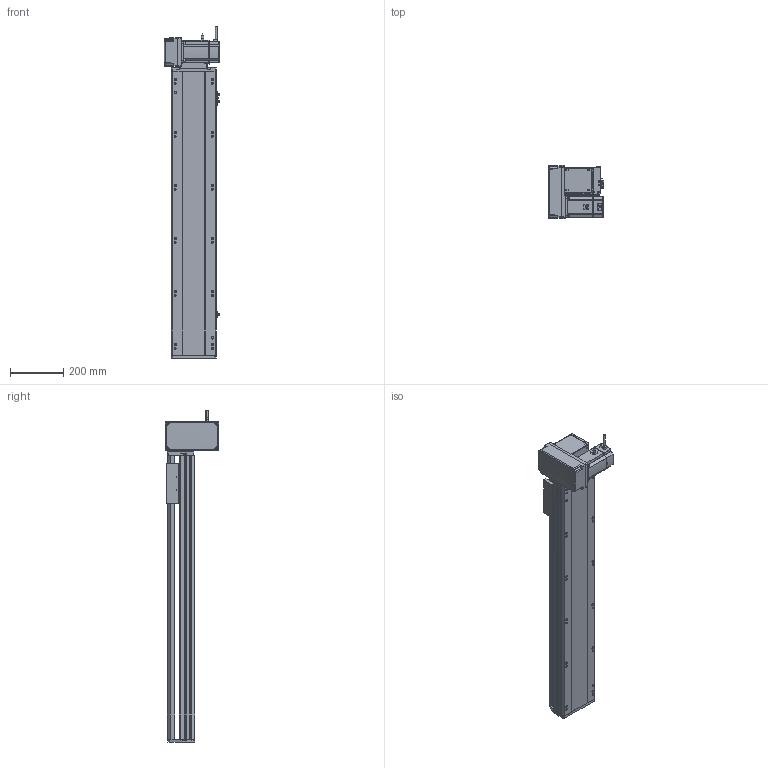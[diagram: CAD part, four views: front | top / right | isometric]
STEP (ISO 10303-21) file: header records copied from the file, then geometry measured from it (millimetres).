
FILE_DESCRIPTION (( 'STEP AP214' ), '1' );
FILE_NAME ('RTB17S-XX-800-LM-M75-C4.STEP', '2025-12-12T00:37:03', ( '' ), ( '' ), 'SwSTEP 2.0', 'SolidWorks 2018', '' );
FILE_SCHEMA (( 'AUTOMOTIVE_DESIGN' ));
Length unit declared in the file: millimetre
Products named in the file (15): 750W萇儂^RTB17S-XX-XX-LM-M75-C4; RTB17S-賑釱^RTB17S-XX-XX-LM-M75-C4; RTB17S-XX-800-LM-M75-C4; RTB17S-L-001-耜醱啣^RTB17S-XX-XX-LM-M75-C4; EE672^RTB17S-XX-XX-LM-M75-C4; RTB17S-LM-々湍釱蚾饜-750W^RTB17S-XX-XX-LM-M75-C4; RTB22S-GY-005P^RTB17S-LM-々湍釱蚾饜-750W_RTB17S-XX-XX-LM-M75-C4; RTH13-BL-012覜茼え俋离^RTB17S-賑釱_RTB17S-XX-XX-LM-M75-C4; RTB17-R-011菁釱^RTB17S-XX-XX-LM-M75-C4; RTB22S-GY-018P^RTB17S-LM-々湍釱蚾饜-750W_RTB17S-XX-XX-LM-M75-C4; RTB22S-GY-017P^RTB17S-LM-々湍釱蚾饜-750W_RTB17S-XX-XX-LM-M75-C4; RTB17S-L-014-T20-P75--々湍釱^RTB17S-LM-々湍釱蚾饜-750W_RTB17S-XX-XX-LM-M75-C4; RTB17S-L-007奻裔^RTB17S-XX-XX-LM-M75-C4; RTB17S-L-004-賑釱^RTB17S-賑釱_RTB17S-XX-XX-LM-M75-C4; RTB22S-GY-008-M75--萇儂啣^RTB17S-LM-々湍釱蚾饜-750W_RTB17S-XX-XX-LM-M75-C4
Assembly tree (17 placements, depth 3):
  RTB17S-XX-800-LM-M75-C4
    RTB17-R-011菁釱^RTB17S-XX-XX-LM-M75-C4
    EE672^RTB17S-XX-XX-LM-M75-C4  x3
    RTB17S-L-001-耜醱啣^RTB17S-XX-XX-LM-M75-C4
    RTB17S-賑釱^RTB17S-XX-XX-LM-M75-C4
      RTB17S-L-004-賑釱^RTB17S-賑釱_RTB17S-XX-XX-LM-M75-C4
      RTH13-BL-012覜茼え俋离^RTB17S-賑釱_RTB17S-XX-XX-LM-M75-C4
    RTB17S-L-007奻裔^RTB17S-XX-XX-LM-M75-C4
    750W萇儂^RTB17S-XX-XX-LM-M75-C4
    RTB17S-LM-々湍釱蚾饜-750W^RTB17S-XX-XX-LM-M75-C4
      RTB17S-L-014-T20-P75--々湍釱^RTB17S-LM-々湍釱蚾饜-750W_RTB17S-XX-XX-LM-M75-C4
      RTB22S-GY-005P^RTB17S-LM-々湍釱蚾饜-750W_RTB17S-XX-XX-LM-M75-C4
      RTB22S-GY-017P^RTB17S-LM-々湍釱蚾饜-750W_RTB17S-XX-XX-LM-M75-C4  x2
      RTB22S-GY-008-M75--萇儂啣^RTB17S-LM-々湍釱蚾饜-750W_RTB17S-XX-XX-LM-M75-C4
      RTB22S-GY-018P^RTB17S-LM-々湍釱蚾饜-750W_RTB17S-XX-XX-LM-M75-C4
Bounding box: 210.4 x 200 x 1252.2 mm (x, y, z)
Volume: 10953528.4 mm3; surface area: 1824353.9 mm2
Topology: 17 solids, 17 shells, 2073 faces, 5728 edges, 3698 vertices
Faces by surface type: plane 968, cylinder 689, bspline 294, cone 110, sphere 8, torus 4
Entity records: 57334 total; most frequent: CARTESIAN_POINT 16792, ORIENTED_EDGE 8300, DIRECTION 7772, EDGE_CURVE 4150, AXIS2_PLACEMENT_3D 2718, VERTEX_POINT 2702, LINE 2336, VECTOR 2336
